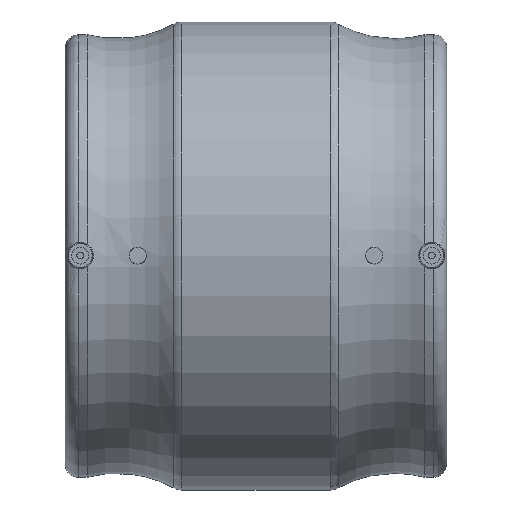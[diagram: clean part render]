
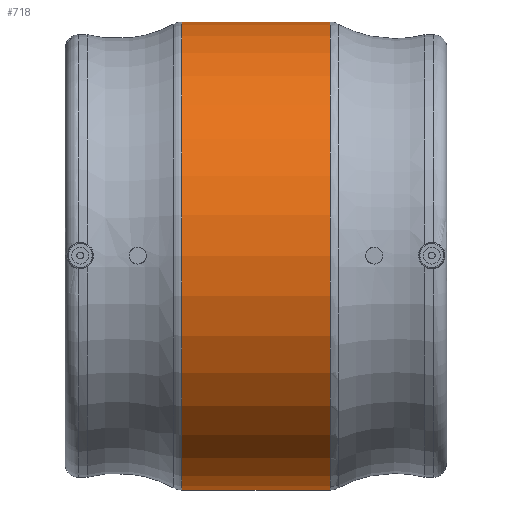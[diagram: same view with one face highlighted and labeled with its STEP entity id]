
A CAD part, top view. The second image highlights one B-rep face of the part: STEP entity #718.
In plain terms, the highlighted cylindrical face has radius 138.5 mm (diameter 277 mm), a full revolution.
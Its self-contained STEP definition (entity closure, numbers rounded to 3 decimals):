
#47=CYLINDRICAL_SURFACE('',#806,138.5);
#232=ORIENTED_EDGE('',*,*,#368,.T.);
#233=ORIENTED_EDGE('',*,*,#369,.T.);
#368=EDGE_CURVE('',#442,#442,#490,.F.);
#369=EDGE_CURVE('',#443,#443,#491,.T.);
#442=VERTEX_POINT('',#1287);
#443=VERTEX_POINT('',#1289);
#490=CIRCLE('',#807,138.5);
#491=CIRCLE('',#808,138.5);
#545=EDGE_LOOP('',(#232));
#546=EDGE_LOOP('',(#233));
#625=FACE_BOUND('',#545,.T.);
#626=FACE_BOUND('',#546,.T.);
#718=ADVANCED_FACE('',(#625,#626),#47,.T.);
#806=AXIS2_PLACEMENT_3D('',#1285,#976,#977);
#807=AXIS2_PLACEMENT_3D('',#1286,#978,#979);
#808=AXIS2_PLACEMENT_3D('',#1288,#980,#981);
#976=DIRECTION('',(-1.,0.,0.));
#977=DIRECTION('',(0.,0.,1.));
#978=DIRECTION('',(1.,0.,0.));
#979=DIRECTION('',(0.,0.,-1.));
#980=DIRECTION('',(1.,0.,0.));
#981=DIRECTION('',(0.,0.,-1.));
#1285=CARTESIAN_POINT('',(-60.,0.,0.));
#1286=CARTESIAN_POINT('',(43.855,0.,0.));
#1287=CARTESIAN_POINT('',(43.855,0.,-138.5));
#1288=CARTESIAN_POINT('',(-43.855,0.,0.));
#1289=CARTESIAN_POINT('',(-43.855,0.,-138.5));
